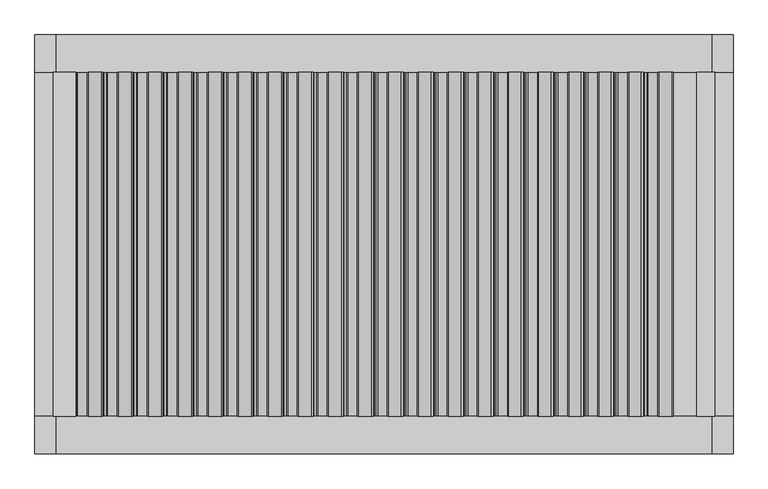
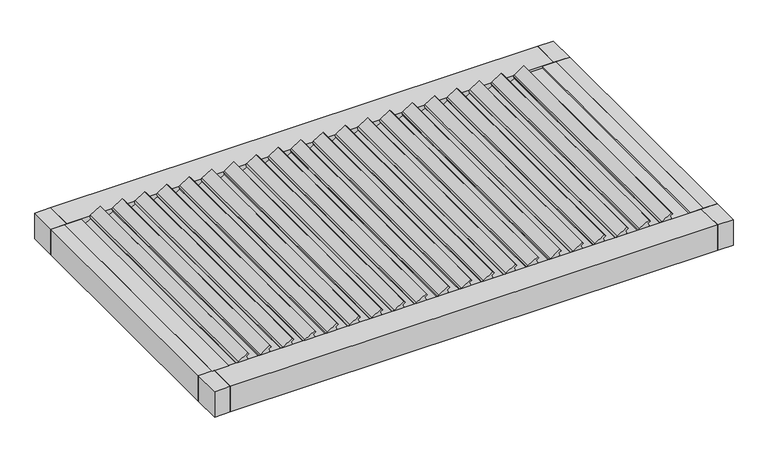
"""IFC4 building model written with IfcOpenShell, lengths in millimetres: proxy geometry, Renson_Aero_Skye_Patio covers : Aero Skye - Single."""

from ifc_helpers import new_model, si_unit, point, frame, frame_2d, origin, place, context, project, spatial, polyline, circle_curve, trimmed, segment, composite_curve, outline, extrude, source, transform, mapped, element, save


def generic_models_e1cb7084(model_context):
    return source(origin(), model_context, "Body", "SweptSolid", [
        extrude(outline(composite_curve([segment(polyline([(9.6354765, 1844.1703362), (34.8015087, 1832.4352227), (50.418628, 1856.7147539), (65.5823251, 1843.9909012), (6.0080876, 1751.3723756)]), True, "CONTINUOUS"), segment(trimmed(circle_curve(frame_2d((-6.6074976, 1759.4869927)), 15.0), [point((6.0080876, 1751.3723756))], [point((-11.7377998, 1745.3916033))], False, "CARTESIAN"), True, "CONTINUOUS"), segment(polyline([(-11.7377998, 1745.3916033), (-30.0864383, 1752.0699616), (-73.9543263, 1676.0885507), (-60.6693598, 1664.9411403), (-68.9433393, 1652.0777985), (-94.4123595, 1663.9541977), (9.6354765, 1844.1703362)]), True, "CONTINUOUS")], self_intersect=False)), frame((0.0, -1232.0, 0.0), z_axis=(0.0, 1.0, 0.0), x_axis=(0.0, 0.0, 1.0)), (0.0, 0.0, 1.0), 2464.0),
        extrude(outline(composite_curve([segment(polyline([(9.6354765, 1629.1612374), (34.8015087, 1617.4261239), (50.418628, 1641.7056551), (65.5823251, 1628.9818025), (6.0080876, 1536.3632768)]), True, "CONTINUOUS"), segment(trimmed(circle_curve(frame_2d((-6.6074976, 1544.4778939)), 15.0), [point((6.0080876, 1536.3632768))], [point((-11.7377998, 1530.3825046))], False, "CARTESIAN"), True, "CONTINUOUS"), segment(polyline([(-11.7377998, 1530.3825046), (-30.0864383, 1537.0608628), (-73.9543263, 1461.079452), (-60.6693598, 1449.9320415), (-68.9433393, 1437.0686997), (-94.4123595, 1448.9450989), (9.6354765, 1629.1612374)]), True, "CONTINUOUS")], self_intersect=False)), frame((0.0, -1232.0, 0.0), z_axis=(0.0, 1.0, 0.0), x_axis=(0.0, 0.0, 1.0)), (0.0, 0.0, 1.0), 2464.0),
        extrude(outline(composite_curve([segment(polyline([(9.6354765, 1414.1521387), (34.8015087, 1402.4170251), (50.418628, 1426.6965564), (65.5823251, 1413.9727037), (6.0080876, 1321.3541781)]), True, "CONTINUOUS"), segment(trimmed(circle_curve(frame_2d((-6.6074976, 1329.4687951)), 15.0), [point((6.0080876, 1321.3541781))], [point((-11.7377998, 1315.3734058))], False, "CARTESIAN"), True, "CONTINUOUS"), segment(polyline([(-11.7377998, 1315.3734058), (-30.0864383, 1322.0517641), (-73.9543263, 1246.0703532), (-60.6693598, 1234.9229427), (-68.9433393, 1222.059601), (-94.4123595, 1233.9360002), (9.6354765, 1414.1521387)]), True, "CONTINUOUS")], self_intersect=False)), frame((0.0, -1232.0, 0.0), z_axis=(0.0, 1.0, 0.0), x_axis=(0.0, 0.0, 1.0)), (0.0, 0.0, 1.0), 2464.0),
        extrude(outline(composite_curve([segment(polyline([(9.6354765, 1199.1430399), (34.8015087, 1187.4079264), (50.418628, 1211.6874576), (65.5823251, 1198.9636049), (6.0080876, 1106.3450793)]), True, "CONTINUOUS"), segment(trimmed(circle_curve(frame_2d((-6.6074976, 1114.4596964)), 15.0), [point((6.0080876, 1106.3450793))], [point((-11.7377998, 1100.3643071))], False, "CARTESIAN"), True, "CONTINUOUS"), segment(polyline([(-11.7377998, 1100.3643071), (-30.0864383, 1107.0426653), (-73.9543263, 1031.0612544), (-60.6693598, 1019.913844), (-68.9433393, 1007.0505022), (-94.4123595, 1018.9269014), (9.6354765, 1199.1430399)]), True, "CONTINUOUS")], self_intersect=False)), frame((0.0, -1232.0, 0.0), z_axis=(0.0, 1.0, 0.0), x_axis=(0.0, 0.0, 1.0)), (0.0, 0.0, 1.0), 2464.0),
        extrude(outline(composite_curve([segment(polyline([(9.6354765, 984.1339412), (34.8015087, 972.3988276), (50.418628, 996.6783588), (65.5823251, 983.9545062), (6.0080876, 891.3359805)]), True, "CONTINUOUS"), segment(trimmed(circle_curve(frame_2d((-6.6074976, 899.4505976)), 15.0), [point((6.0080876, 891.3359805))], [point((-11.7377998, 885.3552083))], False, "CARTESIAN"), True, "CONTINUOUS"), segment(polyline([(-11.7377998, 885.3552083), (-30.0864383, 892.0335665), (-73.9543263, 816.0521557), (-60.6693598, 804.9047452), (-68.9433393, 792.0414034), (-94.4123595, 803.9178026), (9.6354765, 984.1339412)]), True, "CONTINUOUS")], self_intersect=False)), frame((0.0, -1232.0, 0.0), z_axis=(0.0, 1.0, 0.0), x_axis=(0.0, 0.0, 1.0)), (0.0, 0.0, 1.0), 2464.0),
        extrude(outline(composite_curve([segment(polyline([(9.6354765, 769.1248424), (34.8015087, 757.3897288), (50.418628, 781.6692601), (65.5823251, 768.9454074), (6.0080876, 676.3268818)]), True, "CONTINUOUS"), segment(trimmed(circle_curve(frame_2d((-6.6074976, 684.4414988)), 15.0), [point((6.0080876, 676.3268818))], [point((-11.7377998, 670.3461095))], False, "CARTESIAN"), True, "CONTINUOUS"), segment(polyline([(-11.7377998, 670.3461095), (-30.0864383, 677.0244678), (-73.9543263, 601.0430569), (-60.6693598, 589.8956464), (-68.9433393, 577.0323047), (-94.4123595, 588.9087039), (9.6354765, 769.1248424)]), True, "CONTINUOUS")], self_intersect=False)), frame((0.0, -1232.0, 0.0), z_axis=(0.0, 1.0, 0.0), x_axis=(0.0, 0.0, 1.0)), (0.0, 0.0, 1.0), 2464.0),
        extrude(outline(composite_curve([segment(polyline([(9.6354765, 554.1157436), (34.8015087, 542.3806301), (50.418628, 566.6601613), (65.5823251, 553.9363087), (6.0080876, 461.317783)]), True, "CONTINUOUS"), segment(trimmed(circle_curve(frame_2d((-6.6074976, 469.4324001)), 15.0), [point((6.0080876, 461.317783))], [point((-11.7377998, 455.3370108))], False, "CARTESIAN"), True, "CONTINUOUS"), segment(polyline([(-11.7377998, 455.3370108), (-30.0864383, 462.015369), (-73.9543263, 386.0339581), (-60.6693598, 374.8865477), (-68.9433393, 362.0232059), (-94.4123595, 373.8996051), (9.6354765, 554.1157436)]), True, "CONTINUOUS")], self_intersect=False)), frame((0.0, -1232.0, 0.0), z_axis=(0.0, 1.0, 0.0), x_axis=(0.0, 0.0, 1.0)), (0.0, 0.0, 1.0), 2464.0),
        extrude(outline(composite_curve([segment(polyline([(9.6354765, 339.1066449), (34.8015087, 327.3715313), (50.418628, 351.6510625), (65.5823251, 338.9272099), (6.0080876, 246.3086842)]), True, "CONTINUOUS"), segment(trimmed(circle_curve(frame_2d((-6.6074976, 254.4233013)), 15.0), [point((6.0080876, 246.3086842))], [point((-11.7377998, 240.327912))], False, "CARTESIAN"), True, "CONTINUOUS"), segment(polyline([(-11.7377998, 240.327912), (-30.0864383, 247.0062702), (-73.9543263, 171.0248594), (-60.6693598, 159.8774489), (-68.9433393, 147.0141072), (-94.4123595, 158.8905064), (9.6354765, 339.1066449)]), True, "CONTINUOUS")], self_intersect=False)), frame((0.0, -1232.0, 0.0), z_axis=(0.0, 1.0, 0.0), x_axis=(0.0, 0.0, 1.0)), (0.0, 0.0, 1.0), 2464.0),
        extrude(outline(composite_curve([segment(polyline([(9.6354765, 124.0975461), (34.8015087, 112.3624326), (50.418628, 136.6419638), (65.5823251, 123.9181111), (6.0080876, 31.2995855)]), True, "CONTINUOUS"), segment(trimmed(circle_curve(frame_2d((-6.6074976, 39.4142026)), 15.0), [point((6.0080876, 31.2995855))], [point((-11.7377998, 25.3188132))], False, "CARTESIAN"), True, "CONTINUOUS"), segment(polyline([(-11.7377998, 25.3188132), (-30.0864383, 31.9971715), (-73.9543263, -43.9842394), (-60.6693598, -55.1316498), (-68.9433393, -67.9949916), (-94.4123595, -56.1185924), (9.6354765, 124.0975461)]), True, "CONTINUOUS")], self_intersect=False)), frame((0.0, -1232.0, 0.0), z_axis=(0.0, 1.0, 0.0), x_axis=(0.0, 0.0, 1.0)), (0.0, 0.0, 1.0), 2464.0),
        extrude(outline(composite_curve([segment(polyline([(9.6354765, -90.9115527), (34.8015087, -102.6466662), (50.418628, -78.367135), (65.5823251, -91.0909876), (6.0080876, -183.7095133)]), True, "CONTINUOUS"), segment(trimmed(circle_curve(frame_2d((-6.6074976, -175.5948962)), 15.0), [point((6.0080876, -183.7095133))], [point((-11.7377998, -189.6902855))], False, "CARTESIAN"), True, "CONTINUOUS"), segment(polyline([(-11.7377998, -189.6902855), (-30.0864383, -183.0119273), (-73.9543263, -258.9933381), (-60.6693598, -270.1407486), (-68.9433393, -283.0040904), (-94.4123595, -271.1276912), (9.6354765, -90.9115527)]), True, "CONTINUOUS")], self_intersect=False)), frame((0.0, -1232.0, 0.0), z_axis=(0.0, 1.0, 0.0), x_axis=(0.0, 0.0, 1.0)), (0.0, 0.0, 1.0), 2464.0),
        extrude(outline(composite_curve([segment(polyline([(9.6354765, -305.9206514), (34.8015087, -317.655765), (50.418628, -293.3762337), (65.5823251, -306.1000864), (6.0080876, -398.718612)]), True, "CONTINUOUS"), segment(trimmed(circle_curve(frame_2d((-6.6074976, -390.603995)), 15.0), [point((6.0080876, -398.718612))], [point((-11.7377998, -404.6993843))], False, "CARTESIAN"), True, "CONTINUOUS"), segment(polyline([(-11.7377998, -404.6993843), (-30.0864383, -398.021026), (-73.9543263, -474.0024369), (-60.6693598, -485.1498474), (-68.9433393, -498.0131891), (-94.4123595, -486.1367899), (9.6354765, -305.9206514)]), True, "CONTINUOUS")], self_intersect=False)), frame((0.0, -1232.0, 0.0), z_axis=(0.0, 1.0, 0.0), x_axis=(0.0, 0.0, 1.0)), (0.0, 0.0, 1.0), 2464.0),
        extrude(outline(composite_curve([segment(polyline([(9.6354765, -520.9297502), (34.8015087, -532.6648637), (50.418628, -508.3853325), (65.5823251, -521.1091852), (6.0080876, -613.7277108)]), True, "CONTINUOUS"), segment(trimmed(circle_curve(frame_2d((-6.6074976, -605.6130937)), 15.0), [point((6.0080876, -613.7277108))], [point((-11.7377998, -619.7084831))], False, "CARTESIAN"), True, "CONTINUOUS"), segment(polyline([(-11.7377998, -619.7084831), (-30.0864383, -613.0301248), (-73.9543263, -689.0115357), (-60.6693598, -700.1589461), (-68.9433393, -713.0222879), (-94.4123595, -701.1458887), (9.6354765, -520.9297502)]), True, "CONTINUOUS")], self_intersect=False)), frame((0.0, -1232.0, 0.0), z_axis=(0.0, 1.0, 0.0), x_axis=(0.0, 0.0, 1.0)), (0.0, 0.0, 1.0), 2464.0),
        extrude(outline(composite_curve([segment(polyline([(9.6354765, -735.938849), (34.8015087, -747.6739625), (50.418628, -723.3944313), (65.5823251, -736.1182839), (6.0080876, -828.7368096)]), True, "CONTINUOUS"), segment(trimmed(circle_curve(frame_2d((-6.6074976, -820.6221925)), 15.0), [point((6.0080876, -828.7368096))], [point((-11.7377998, -834.7175818))], False, "CARTESIAN"), True, "CONTINUOUS"), segment(polyline([(-11.7377998, -834.7175818), (-30.0864383, -828.0392236), (-73.9543263, -904.0206344), (-60.6693598, -915.1680449), (-68.9433393, -928.0313867), (-94.4123595, -916.1549875), (9.6354765, -735.938849)]), True, "CONTINUOUS")], self_intersect=False)), frame((0.0, -1232.0, 0.0), z_axis=(0.0, 1.0, 0.0), x_axis=(0.0, 0.0, 1.0)), (0.0, 0.0, 1.0), 2464.0),
        extrude(outline(composite_curve([segment(polyline([(9.6354765, -950.9479477), (34.8015087, -962.6830613), (50.418628, -938.40353), (65.5823251, -951.1273827), (6.0080876, -1043.7459083)]), True, "CONTINUOUS"), segment(trimmed(circle_curve(frame_2d((-6.6074976, -1035.6312913)), 15.0), [point((6.0080876, -1043.7459083))], [point((-11.7377998, -1049.7266806))], False, "CARTESIAN"), True, "CONTINUOUS"), segment(polyline([(-11.7377998, -1049.7266806), (-30.0864383, -1043.0483223), (-73.9543263, -1119.0297332), (-60.6693598, -1130.1771437), (-68.9433393, -1143.0404854), (-94.4123595, -1131.1640862), (9.6354765, -950.9479477)]), True, "CONTINUOUS")], self_intersect=False)), frame((0.0, -1232.0, 0.0), z_axis=(0.0, 1.0, 0.0), x_axis=(0.0, 0.0, 1.0)), (0.0, 0.0, 1.0), 2464.0),
        extrude(outline(composite_curve([segment(polyline([(9.6354765, -1165.9570465), (34.8015087, -1177.69216), (50.418628, -1153.4126288), (65.5823251, -1166.1364815), (6.0080876, -1258.7550071)]), True, "CONTINUOUS"), segment(trimmed(circle_curve(frame_2d((-6.6074976, -1250.64039)), 15.0), [point((6.0080876, -1258.7550071))], [point((-11.7377998, -1264.7357793))], False, "CARTESIAN"), True, "CONTINUOUS"), segment(polyline([(-11.7377998, -1264.7357793), (-30.0864383, -1258.0574211), (-73.9543263, -1334.038832), (-60.6693598, -1345.1862424), (-68.9433393, -1358.0495842), (-94.4123595, -1346.173185), (9.6354765, -1165.9570465)]), True, "CONTINUOUS")], self_intersect=False)), frame((0.0, -1232.0, 0.0), z_axis=(0.0, 1.0, 0.0), x_axis=(0.0, 0.0, 1.0)), (0.0, 0.0, 1.0), 2464.0),
        extrude(outline(composite_curve([segment(polyline([(9.6354765, -1380.9661452), (34.8015087, -1392.7012588), (50.418628, -1368.4217276), (65.5823251, -1381.1455802), (6.0080876, -1473.7641059)]), True, "CONTINUOUS"), segment(trimmed(circle_curve(frame_2d((-6.6074976, -1465.6494888)), 15.0), [point((6.0080876, -1473.7641059))], [point((-11.7377998, -1479.7448781))], False, "CARTESIAN"), True, "CONTINUOUS"), segment(polyline([(-11.7377998, -1479.7448781), (-30.0864383, -1473.0665199), (-73.9543263, -1549.0479307), (-60.6693598, -1560.1953412), (-68.9433393, -1573.058683), (-94.4123595, -1561.1822838), (9.6354765, -1380.9661452)]), True, "CONTINUOUS")], self_intersect=False)), frame((0.0, -1232.0, 0.0), z_axis=(0.0, 1.0, 0.0), x_axis=(0.0, 0.0, 1.0)), (0.0, 0.0, 1.0), 2464.0),
        extrude(outline(composite_curve([segment(polyline([(9.6354765, -1595.975244), (34.8015087, -1607.7103575), (50.418628, -1583.4308263), (65.5823251, -1596.154679), (6.0080876, -1688.7732046)]), True, "CONTINUOUS"), segment(trimmed(circle_curve(frame_2d((-6.6074976, -1680.6585876)), 15.0), [point((6.0080876, -1688.7732046))], [point((-11.7377998, -1694.7539769))], False, "CARTESIAN"), True, "CONTINUOUS"), segment(polyline([(-11.7377998, -1694.7539769), (-30.0864383, -1688.0756186), (-73.9543263, -1764.0570295), (-60.6693598, -1775.2044399), (-68.9433393, -1788.0677817), (-94.4123595, -1776.1913825), (9.6354765, -1595.975244)]), True, "CONTINUOUS")], self_intersect=False)), frame((0.0, -1232.0, 0.0), z_axis=(0.0, 1.0, 0.0), x_axis=(0.0, 0.0, 1.0)), (0.0, 0.0, 1.0), 2464.0),
        extrude(outline(composite_curve([segment(polyline([(9.6354765, -1810.9843428), (34.8015087, -1822.7194563), (50.418628, -1798.4399251), (65.5823251, -1811.1637777), (6.0080876, -1903.7823034)]), True, "CONTINUOUS"), segment(trimmed(circle_curve(frame_2d((-6.6074976, -1895.6676863)), 15.0), [point((6.0080876, -1903.7823034))], [point((-11.7377998, -1909.7630756))], False, "CARTESIAN"), True, "CONTINUOUS"), segment(polyline([(-11.7377998, -1909.7630756), (-30.0864383, -1903.0847174), (-73.9543263, -1979.0661283), (-60.6693598, -1990.2135387), (-68.9433393, -2003.0768805), (-94.4123595, -1991.2004813), (9.6354765, -1810.9843428)]), True, "CONTINUOUS")], self_intersect=False)), frame((0.0, -1232.0, 0.0), z_axis=(0.0, 1.0, 0.0), x_axis=(0.0, 0.0, 1.0)), (0.0, 0.0, 1.0), 2464.0),
        extrude(outline(composite_curve([segment(polyline([(9.6354765, 2059.179435), (34.8015087, 2047.4443214), (50.418628, 2071.7238527), (65.5823251, 2059.0), (6.0080876, 1966.3814744)]), True, "CONTINUOUS"), segment(trimmed(circle_curve(frame_2d((-6.6074976, 1974.4960914)), 15.0), [point((6.0080876, 1966.3814744))], [point((-11.7377998, 1960.4007021))], False, "CARTESIAN"), True, "CONTINUOUS"), segment(polyline([(-11.7377998, 1960.4007021), (-30.0864383, 1967.0790604), (-73.9543263, 1891.0976495), (-60.6693598, 1879.950239), (-68.9433393, 1867.0868973), (-94.4123595, 1878.9632965), (9.6354765, 2059.179435)]), True, "CONTINUOUS")], self_intersect=False)), frame((0.0, -1232.0, 0.0), z_axis=(0.0, 1.0, 0.0), x_axis=(0.0, 0.0, 1.0)), (0.0, 0.0, 1.0), 2464.0),
        extrude(outline(composite_curve([segment(polyline([(9.6354765, -2025.9934415), (34.8015087, -2037.7285551), (50.418628, -2013.4490239), (65.5823251, -2026.1728765), (6.0080876, -2118.7914022)]), True, "CONTINUOUS"), segment(trimmed(circle_curve(frame_2d((-6.6074976, -2110.6767851)), 15.0), [point((6.0080876, -2118.7914022))], [point((-11.7377998, -2124.7721744))], False, "CARTESIAN"), True, "CONTINUOUS"), segment(polyline([(-11.7377998, -2124.7721744), (-30.0864383, -2118.0938162), (-73.9543263, -2194.075227), (-60.6693598, -2205.2226375), (-68.9433393, -2218.0859792), (-94.4123595, -2206.20958), (9.6354765, -2025.9934415)]), True, "CONTINUOUS")], self_intersect=False)), frame((0.0, -1232.0, 0.0), z_axis=(0.0, 1.0, 0.0), x_axis=(0.0, 0.0, 1.0)), (0.0, 0.0, 1.0), 2464.0),
        extrude(outline(polyline([(-63.35, 2369.0), (0.0, 2369.0), (0.0, 2239.5), (-20.0, 2239.5), (-20.0, 2059.0), (-44.0, 2059.0), (-44.0, 2209.0), (-63.35, 2209.0), (-63.35, 2369.0)])), frame((0.0, -1232.0, 0.0), z_axis=(0.0, 1.0, 0.0), x_axis=(0.0, 0.0, 1.0)), (0.0, 0.0, 1.0), 2464.0),
        extrude(outline(polyline([(0.0, -2209.0), (0.0, -2369.0), (-44.0, -2369.0), (-44.0, -2236.3193336), (-10.8283397, -2233.4171894), (-9.655498, -2209.0), (0.0, -2209.0)])), frame((0.0, -1232.0, 0.0), z_axis=(0.0, 1.0, 0.0), x_axis=(0.0, 0.0, 1.0)), (0.0, 0.0, 1.0), 2464.0),
        extrude(outline(polyline([(2500.0, -1500.0), (2350.0, -1500.0), (2350.0, -1232.0), (2500.0, -1232.0), (2500.0, -1500.0)])), frame((0.0, 0.0, -260.0), z_axis=(0.0, 0.0, 1.0), x_axis=(1.0, 0.0, 0.0)), (0.0, 0.0, 1.0), 260.0),
        extrude(outline(polyline([(-2500.0, -1500.0), (-2500.0, -1232.0), (-2350.0, -1232.0), (-2350.0, -1500.0), (-2500.0, -1500.0)])), frame((0.0, 0.0, -260.0), z_axis=(0.0, 0.0, 1.0), x_axis=(1.0, 0.0, 0.0)), (0.0, 0.0, 1.0), 260.0),
        extrude(outline(polyline([(-2350.0, 1232.0), (-2500.0, 1232.0), (-2500.0, 1500.0), (-2350.0, 1500.0), (-2350.0, 1232.0)])), frame((0.0, 0.0, -260.0), z_axis=(0.0, 0.0, 1.0), x_axis=(1.0, 0.0, 0.0)), (0.0, 0.0, 1.0), 260.0),
        extrude(outline(polyline([(2500.0, 1500.0), (2500.0, 1232.0), (2350.0, 1232.0), (2350.0, 1500.0), (2500.0, 1500.0)])), frame((0.0, 0.0, -260.0), z_axis=(0.0, 0.0, 1.0), x_axis=(1.0, 0.0, 0.0)), (0.0, 0.0, 1.0), 260.0),
        extrude(outline(polyline([(-1232.0, -188.0), (-1170.0, -188.0), (-1170.0, -260.0), (-1500.0, -260.0), (-1500.0, 0.0), (-1232.0, 0.0), (-1232.0, -188.0)])), frame((-2350.0, 0.0, 0.0), z_axis=(1.0, 0.0, 0.0), x_axis=(0.0, 1.0, 0.0)), (0.0, 0.0, 1.0), 4700.0),
        extrude(outline(polyline([(1232.0, -188.0), (1232.0, 0.0), (1500.0, 0.0), (1500.0, -260.0), (1170.0, -260.0), (1170.0, -188.0), (1232.0, -188.0)])), frame((-2350.0, 0.0, 0.0), z_axis=(1.0, 0.0, 0.0), x_axis=(0.0, 1.0, 0.0)), (0.0, 0.0, 1.0), 4700.0),
        extrude(outline(polyline([(-64.0, 2369.0), (-64.0, 2350.0), (-260.0, 2350.0), (-260.0, 2500.0), (0.0, 2500.0), (0.0, 2369.0), (-64.0, 2369.0)])), frame((0.0, -1232.0, 0.0), z_axis=(0.0, 1.0, 0.0), x_axis=(0.0, 0.0, 1.0)), (0.0, 0.0, 1.0), 2464.0),
        extrude(outline(polyline([(-64.0, -2369.0), (0.0, -2369.0), (0.0, -2500.0), (-260.0, -2500.0), (-260.0, -2350.0), (-64.0, -2350.0), (-64.0, -2369.0)])), frame((0.0, -1232.0, 0.0), z_axis=(0.0, 1.0, 0.0), x_axis=(0.0, 0.0, 1.0)), (0.0, 0.0, 1.0), 2464.0),
    ])


if __name__ == "__main__":
    model = new_model("IFC4")
    model_context = context("Model", 3, world=origin())
    ifc_project = project(units=[si_unit("LENGTHUNIT", "METRE", prefix="MILLI")], contexts=[model_context])
    site = spatial("IfcSite", under=ifc_project)
    building = spatial("IfcBuilding", under=site)
    placement = place(None, origin())
    generic_models_shape = generic_models_e1cb7084(model_context)
    element("IfcBuildingElementProxy", 1, Name="Renson_Aero_Skye_Patio covers : Aero Skye - Single", ObjectType="Renson_Aero_Skye_Patio covers : Aero Skye - Single", at=placement, inside=building, context=model_context, shape_type="MappedRepresentation", body=[
        mapped(generic_models_shape, transform((0.0, 0.0, 0.0), x_axis=(1.0, 0.0, 0.0), y_axis=(0.0, 1.0, 0.0), z_axis=(0.0, 0.0, 1.0))),
    ])
    save(model, "model.ifc")
